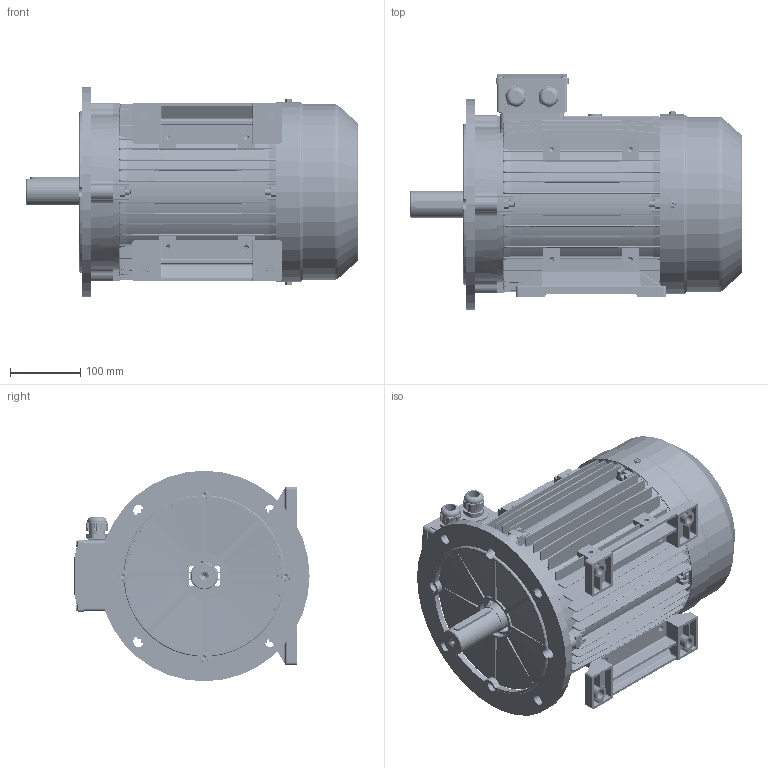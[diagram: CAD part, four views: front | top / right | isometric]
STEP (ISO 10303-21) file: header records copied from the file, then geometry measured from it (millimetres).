
FILE_DESCRIPTION (( 'STEP AP203' ), '1' );
FILE_NAME ('MSL132M assembly B35.STEP', '2017-11-26T10:17:26', ( 'user' ), ( 'china' ), 'SwSTEP 2.0', 'SolidWorks 2016', '' );
FILE_SCHEMA (( 'CONFIG_CONTROL_DESIGN' ));
Length unit declared in the file: millimetre
Products named in the file (17): MSL132M assembly B35; MS132諉盄碟釱(苤)_2Holes; GB-T 29.2-1988 M4鞠褒坋趼湍菜_05; M25 cable gland; M132瑞欶_117; M132菁褐(等謂)_M; M132-Shaft drive end_DNF; MS132 綴裔瑞欶郪磁; M132傷裔B3_NonDrive; M132儂褲_M; M112-132諉盄碟(苤); GB-T 70.1-2000 M8_40; M132傷裔B5; GB-T 29.2-1988 M5鞠褒坋趼湍菜_10; MS132諉盄碟裔(苤); GB-T 5780-2000 M8_040; GB-T 41-2000 M8
Assembly tree (36 placements, depth 3):
  MSL132M assembly B35
    M132儂褲_M
    M132-Shaft drive end_DNF
    M132菁褐(等謂)_M  x2
    MS132 綴裔瑞欶郪磁
      M132傷裔B3_NonDrive
      M132瑞欶_117
      GB-T 29.2-1988 M5鞠褒坋趼湍菜_10  x3
    GB-T 41-2000 M8  x8
    GB-T 70.1-2000 M8_40  x4
    M132傷裔B5
    M112-132諉盄碟(苤)
      MS132諉盄碟釱(苤)_2Holes
      MS132諉盄碟裔(苤)
      GB-T 29.2-1988 M4鞠褒坋趼湍菜_05  x4
      M25 cable gland  x2
    GB-T 5780-2000 M8_040  x4
Bounding box: 473 x 335 x 300 mm (x, y, z)
Volume: 3099135.1 mm3; surface area: 1564774.9 mm2
Topology: 36 solids, 36 shells, 5750 faces, 15163 edges, 9509 vertices
Faces by surface type: plane 2400, cylinder 1524, cone 1090, bspline 596, torus 128, sphere 12
Entity records: 161643 total; most frequent: CARTESIAN_POINT 63348, ORIENTED_EDGE 21392, DIRECTION 18029, EDGE_CURVE 10696, VERTEX_POINT 6841, LINE 6111, VECTOR 6111, AXIS2_PLACEMENT_3D 5959
